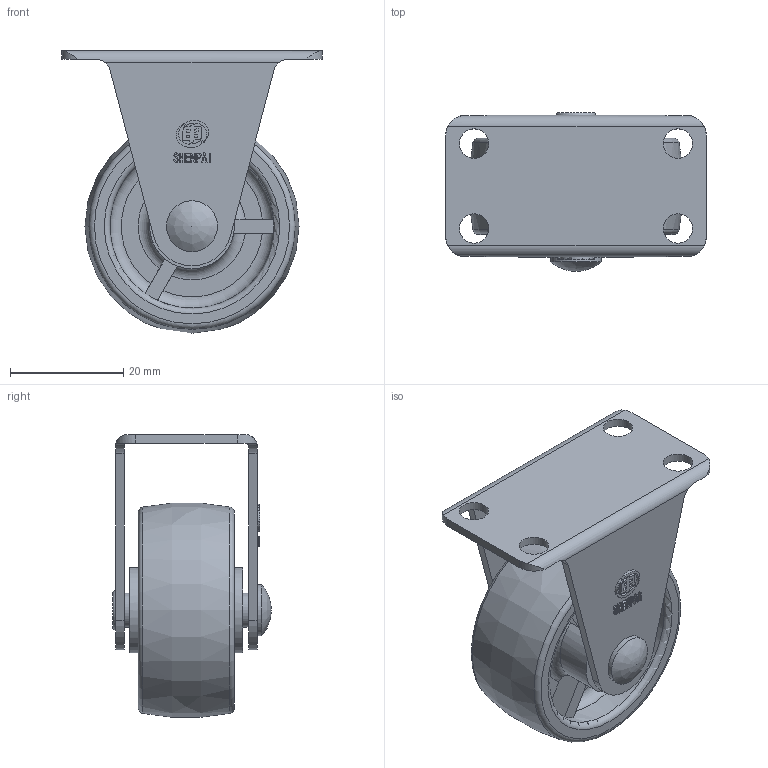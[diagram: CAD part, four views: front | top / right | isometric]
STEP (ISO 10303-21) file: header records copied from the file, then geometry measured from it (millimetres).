
FILE_DESCRIPTION(/* description */ (''),/* implementation_level */ '2;1');
FILE_NAME(/* name */ '10A09_1.5_F.stp',/* time_stamp */ '2022-10-06T13:43:12+08:00',/* author */ (''),/* organization */ (''),/* preprocessor_version */ 'ST-DEVELOPER v14',/* originating_system */ 'SIEMENS PLM Software NX 8.0',/* authorisation */ '');
FILE_SCHEMA (('AUTOMOTIVE_DESIGN { 1 0 10303 214 3 1 1 1 }'));
Length unit declared in the file: millimetre
Products named in the file (1): 10A09_1.5_F
Bounding box: 46 x 28 x 49.91 mm (x, y, z)
Volume: 16831.6 mm3; surface area: 11556.9 mm2
Topology: 1 solids, 1 shells, 272 faces, 741 edges, 494 vertices
Faces by surface type: plane 198, cylinder 55, torus 17, bspline 2
Full cylindrical faces by diameter (mm): 5 x1, 5.2 x4, 6 x2, 6.2 x2, 9 x1, 15 x2, 29 x2
Entity records: 9010 total; most frequent: CARTESIAN_POINT 2383, ORIENTED_EDGE 1420, DIRECTION 1245, EDGE_CURVE 710, VERTEX_POINT 485, LINE 421, VECTOR 421, AXIS2_PLACEMENT_3D 412
